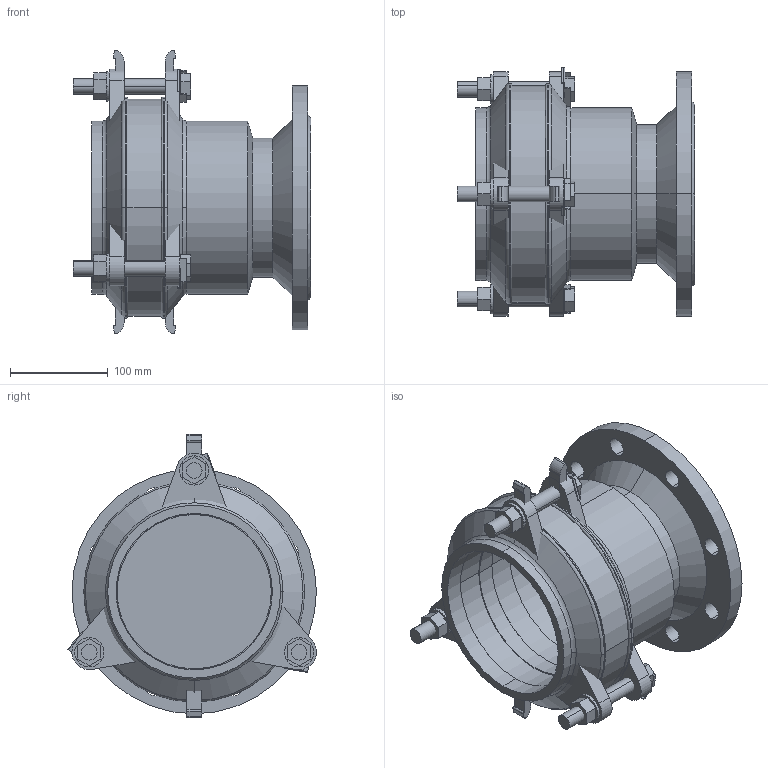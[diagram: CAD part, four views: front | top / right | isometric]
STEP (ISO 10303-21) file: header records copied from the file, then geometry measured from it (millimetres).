
FILE_DESCRIPTION(('STEP AP214'),'1');
FILE_NAME('EM000047 DN 125.STP','2015-01-29T09:13:04',(' '),(' '),'Spatial InterOp 3D',' ',' ');
FILE_SCHEMA(('automotive_design'));
Length unit declared in the file: millimetre
Products named in the file (38): 3D-Objekt
Bounding box: 243 x 254.75 x 290 mm (x, y, z)
Volume: 2704305.6 mm3; surface area: 705479.6 mm2
Topology: 38 solids, 38 shells, 307 faces, 691 edges, 460 vertices
Faces by surface type: plane 186, cylinder 95, cone 14, torus 12
Entity records: 12021 total; most frequent: DIRECTION 1633, CARTESIAN_POINT 1496, ORIENTED_EDGE 1382, EDGE_CURVE 691, AXIS2_PLACEMENT_3D 597, VERTEX_POINT 460, LINE 439, VECTOR 439
